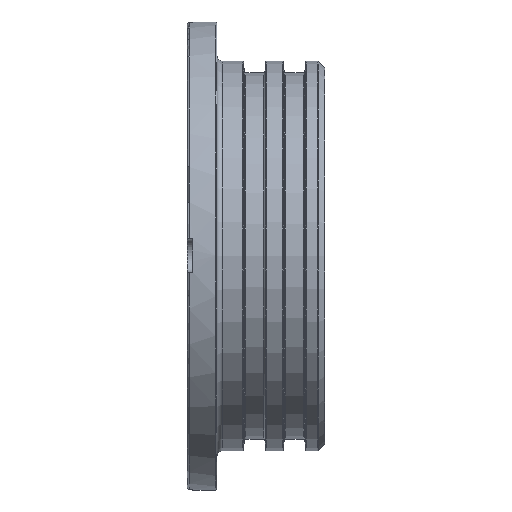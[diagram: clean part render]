
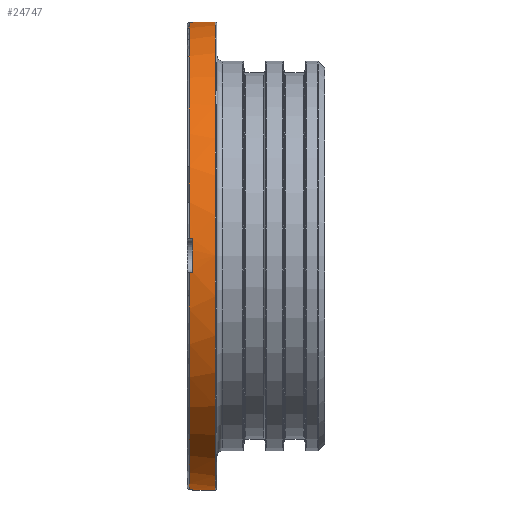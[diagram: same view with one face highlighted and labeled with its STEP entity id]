
A CAD part, top view. The second image highlights one B-rep face of the part: STEP entity #24747.
In plain terms, the highlighted cylindrical face has radius 55.245 mm (diameter 110.49 mm), a partial arc.
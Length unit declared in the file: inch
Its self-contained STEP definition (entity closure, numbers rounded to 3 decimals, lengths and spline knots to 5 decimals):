
#273 = DIRECTION ( 'NONE',  ( 0., 0., -1. ) ) ;
#640 = CARTESIAN_POINT ( 'NONE',  ( 0.015, -2.16938, 0.15625 ) ) ;
#822 = CYLINDRICAL_SURFACE ( 'NONE', #23184, 2.175 ) ;
#950 = FACE_OUTER_BOUND ( 'NONE', #18940, .T. ) ;
#954 = DIRECTION ( 'NONE',  ( -1., 0., 0. ) ) ;
#1422 = ORIENTED_EDGE ( 'NONE', *, *, #22148, .F. ) ;
#1488 = VERTEX_POINT ( 'NONE', #10368 ) ;
#1778 = ORIENTED_EDGE ( 'NONE', *, *, #16501, .T. ) ;
#2406 = CARTESIAN_POINT ( 'NONE',  ( 0.05, 0., 0. ) ) ;
#2426 = VECTOR ( 'NONE', #13028, 39.37008 ) ;
#2459 = CIRCLE ( 'NONE', #18827, 2.175 ) ;
#2462 = ORIENTED_EDGE ( 'NONE', *, *, #7707, .F. ) ;
#2763 = VECTOR ( 'NONE', #4690, 39.37008 ) ;
#2927 = CARTESIAN_POINT ( 'NONE',  ( 0.05, -2.16938, 0.15625 ) ) ;
#2940 = AXIS2_PLACEMENT_3D ( 'NONE', #7929, #8063, #6053 ) ;
#3239 = AXIS2_PLACEMENT_3D ( 'NONE', #25401, #21760, #11766 ) ;
#3371 = DIRECTION ( 'NONE',  ( -1., 0., 0. ) ) ;
#3412 = CARTESIAN_POINT ( 'NONE',  ( 0.05, 0.15625, 2.16938 ) ) ;
#3768 = AXIS2_PLACEMENT_3D ( 'NONE', #17633, #3371, #11563 ) ;
#3808 = CIRCLE ( 'NONE', #2940, 2.175 ) ;
#4431 = CARTESIAN_POINT ( 'NONE',  ( 1.275, -2.16938, 0.15625 ) ) ;
#4514 = CARTESIAN_POINT ( 'NONE',  ( 0.05, 0., 0. ) ) ;
#4690 = DIRECTION ( 'NONE',  ( 1., 0., 0. ) ) ;
#4839 = LINE ( 'NONE', #4431, #2426 ) ;
#4922 = CIRCLE ( 'NONE', #7490, 2.175 ) ;
#4927 = DIRECTION ( 'NONE',  ( 0., 0., -1. ) ) ;
#5129 = VECTOR ( 'NONE', #954, 39.37008 ) ;
#5135 = VERTEX_POINT ( 'NONE', #24997 ) ;
#5342 = EDGE_CURVE ( 'NONE', #25772, #14092, #14836, .T. ) ;
#5565 = ORIENTED_EDGE ( 'NONE', *, *, #5342, .T. ) ;
#5848 = DIRECTION ( 'NONE',  ( 0., -1., 0. ) ) ;
#5924 = ORIENTED_EDGE ( 'NONE', *, *, #22681, .F. ) ;
#6053 = DIRECTION ( 'NONE',  ( 0., 0., -1. ) ) ;
#6615 = CARTESIAN_POINT ( 'NONE',  ( 0.26, 2.175, 0. ) ) ;
#6699 = ORIENTED_EDGE ( 'NONE', *, *, #14930, .F. ) ;
#6902 = VECTOR ( 'NONE', #8441, 39.37008 ) ;
#7004 = CARTESIAN_POINT ( 'NONE',  ( 1.275, 0.15625, 2.16938 ) ) ;
#7490 = AXIS2_PLACEMENT_3D ( 'NONE', #4514, #17029, #4927 ) ;
#7707 = EDGE_CURVE ( 'NONE', #11018, #10163, #4839, .T. ) ;
#7929 = CARTESIAN_POINT ( 'NONE',  ( 0.05, 0., 0. ) ) ;
#8063 = DIRECTION ( 'NONE',  ( -1., 0., 0. ) ) ;
#8263 = DIRECTION ( 'NONE',  ( 1., 0., 0. ) ) ;
#8441 = DIRECTION ( 'NONE',  ( 1., 0., 0. ) ) ;
#9260 = DIRECTION ( 'NONE',  ( 1., 0., 0. ) ) ;
#9362 = CIRCLE ( 'NONE', #3768, 2.175 ) ;
#10163 = VERTEX_POINT ( 'NONE', #640 ) ;
#10368 = CARTESIAN_POINT ( 'NONE',  ( 0.05, 2.16938, 0.15625 ) ) ;
#11018 = VERTEX_POINT ( 'NONE', #2927 ) ;
#11241 = EDGE_CURVE ( 'NONE', #17074, #24618, #4922, .T. ) ;
#11404 = ORIENTED_EDGE ( 'NONE', *, *, #12194, .F. ) ;
#11563 = DIRECTION ( 'NONE',  ( 0., 1., 0. ) ) ;
#11766 = DIRECTION ( 'NONE',  ( 0., -1., 0. ) ) ;
#12194 = EDGE_CURVE ( 'NONE', #16461, #17074, #15460, .T. ) ;
#12277 = CARTESIAN_POINT ( 'NONE',  ( 0.05, -0.15625, 2.16938 ) ) ;
#13028 = DIRECTION ( 'NONE',  ( -1., 0., 0. ) ) ;
#14092 = VERTEX_POINT ( 'NONE', #17882 ) ;
#14836 = CIRCLE ( 'NONE', #3239, 2.175 ) ;
#14930 = EDGE_CURVE ( 'NONE', #25772, #1488, #23128, .T. ) ;
#14947 = DIRECTION ( 'NONE',  ( 0., 1., 0. ) ) ;
#15460 = LINE ( 'NONE', #19360, #25127 ) ;
#15721 = VERTEX_POINT ( 'NONE', #21882 ) ;
#16461 = VERTEX_POINT ( 'NONE', #23269 ) ;
#16463 = DIRECTION ( 'NONE',  ( 1., 0., 0. ) ) ;
#16501 = EDGE_CURVE ( 'NONE', #5135, #15721, #17202, .T. ) ;
#16651 = AXIS2_PLACEMENT_3D ( 'NONE', #20383, #16463, #5848 ) ;
#16867 = CARTESIAN_POINT ( 'NONE',  ( 0.05, 2.175, 0. ) ) ;
#17029 = DIRECTION ( 'NONE',  ( -1., 0., 0. ) ) ;
#17074 = VERTEX_POINT ( 'NONE', #12277 ) ;
#17202 = LINE ( 'NONE', #18671, #6902 ) ;
#17500 = LINE ( 'NONE', #7004, #5129 ) ;
#17633 = CARTESIAN_POINT ( 'NONE',  ( 0.26, 0., 0. ) ) ;
#17882 = CARTESIAN_POINT ( 'NONE',  ( 0.015, 0.15625, 2.16938 ) ) ;
#17959 = VERTEX_POINT ( 'NONE', #16867 ) ;
#18671 = CARTESIAN_POINT ( 'NONE',  ( 1.275, -2.175, 0. ) ) ;
#18827 = AXIS2_PLACEMENT_3D ( 'NONE', #2406, #25040, #273 ) ;
#18940 = EDGE_LOOP ( 'NONE', ( #1422, #1778, #25093, #5924, #20756, #6699, #5565, #20718, #23778, #11404, #25022, #2462 ) ) ;
#19113 = DIRECTION ( 'NONE',  ( 1., 0., 0. ) ) ;
#19360 = CARTESIAN_POINT ( 'NONE',  ( 1.275, -0.15625, 2.16938 ) ) ;
#19663 = CIRCLE ( 'NONE', #16651, 2.175 ) ;
#20010 = VERTEX_POINT ( 'NONE', #6615 ) ;
#20383 = CARTESIAN_POINT ( 'NONE',  ( 0.015, 0., 0. ) ) ;
#20520 = CARTESIAN_POINT ( 'NONE',  ( 1.275, 2.175, 0. ) ) ;
#20718 = ORIENTED_EDGE ( 'NONE', *, *, #24143, .F. ) ;
#20756 = ORIENTED_EDGE ( 'NONE', *, *, #23322, .F. ) ;
#20845 = CARTESIAN_POINT ( 'NONE',  ( 1.275, 2.16938, 0.15625 ) ) ;
#21615 = EDGE_CURVE ( 'NONE', #16461, #10163, #19663, .T. ) ;
#21760 = DIRECTION ( 'NONE',  ( 1., 0., 0. ) ) ;
#21882 = CARTESIAN_POINT ( 'NONE',  ( 0.26, -2.175, 0. ) ) ;
#22148 = EDGE_CURVE ( 'NONE', #5135, #11018, #2459, .T. ) ;
#22321 = EDGE_CURVE ( 'NONE', #15721, #20010, #9362, .T. ) ;
#22681 = EDGE_CURVE ( 'NONE', #17959, #20010, #26321, .T. ) ;
#23128 = LINE ( 'NONE', #20845, #2763 ) ;
#23184 = AXIS2_PLACEMENT_3D ( 'NONE', #23568, #19113, #14947 ) ;
#23269 = CARTESIAN_POINT ( 'NONE',  ( 0.015, -0.15625, 2.16938 ) ) ;
#23322 = EDGE_CURVE ( 'NONE', #1488, #17959, #3808, .T. ) ;
#23568 = CARTESIAN_POINT ( 'NONE',  ( 1.275, 0., 0. ) ) ;
#23778 = ORIENTED_EDGE ( 'NONE', *, *, #11241, .F. ) ;
#24143 = EDGE_CURVE ( 'NONE', #24618, #14092, #17500, .T. ) ;
#24618 = VERTEX_POINT ( 'NONE', #3412 ) ;
#24747 = ADVANCED_FACE ( 'NONE', ( #950 ), #822, .T. ) ;
#24997 = CARTESIAN_POINT ( 'NONE',  ( 0.05, -2.175, 0. ) ) ;
#25022 = ORIENTED_EDGE ( 'NONE', *, *, #21615, .T. ) ;
#25040 = DIRECTION ( 'NONE',  ( -1., 0., 0. ) ) ;
#25093 = ORIENTED_EDGE ( 'NONE', *, *, #22321, .T. ) ;
#25127 = VECTOR ( 'NONE', #9260, 39.37008 ) ;
#25401 = CARTESIAN_POINT ( 'NONE',  ( 0.015, 0., 0. ) ) ;
#25718 = VECTOR ( 'NONE', #8263, 39.37008 ) ;
#25772 = VERTEX_POINT ( 'NONE', #25862 ) ;
#25862 = CARTESIAN_POINT ( 'NONE',  ( 0.015, 2.16938, 0.15625 ) ) ;
#26321 = LINE ( 'NONE', #20520, #25718 ) ;
